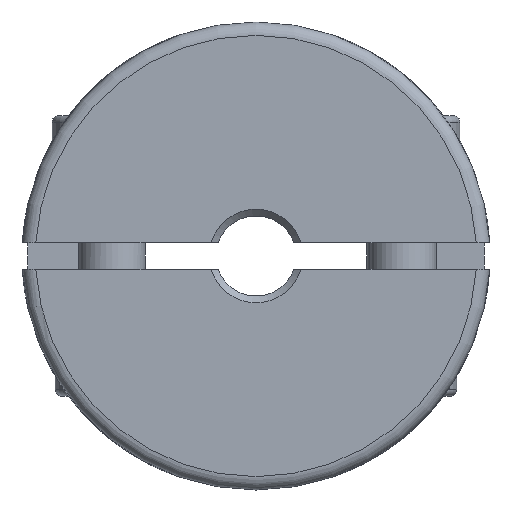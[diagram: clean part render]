
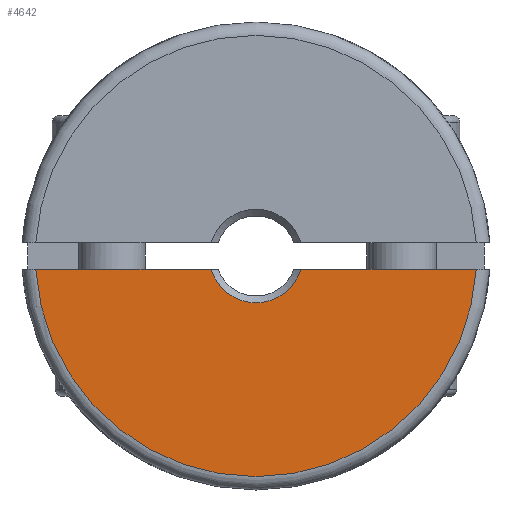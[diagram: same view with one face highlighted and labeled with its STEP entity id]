
A CAD part, left-side view. The second image highlights one B-rep face of the part: STEP entity #4642.
In plain terms, the highlighted planar face has unit normal (-1, 0, 0).
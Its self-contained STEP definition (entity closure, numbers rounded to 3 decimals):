
#127=LINE('',#7410,#303);
#138=LINE('',#7447,#314);
#303=VECTOR('',#5757,1000.);
#314=VECTOR('',#5790,1000.);
#524=PLANE('',#5000);
#1229=ORIENTED_EDGE('',*,*,#1827,.F.);
#1230=ORIENTED_EDGE('',*,*,#1735,.T.);
#1231=ORIENTED_EDGE('',*,*,#1846,.F.);
#1232=ORIENTED_EDGE('',*,*,#1810,.F.);
#1735=EDGE_CURVE('',#2113,#2111,#2361,.T.);
#1810=EDGE_CURVE('',#2179,#2177,#2394,.T.);
#1827=EDGE_CURVE('',#2113,#2179,#127,.T.);
#1846=EDGE_CURVE('',#2177,#2111,#138,.T.);
#2111=VERTEX_POINT('',#6903);
#2113=VERTEX_POINT('',#6906);
#2177=VERTEX_POINT('',#7235);
#2179=VERTEX_POINT('',#7242);
#2361=CIRCLE('',#4915,16.5);
#2394=CIRCLE('',#4967,3.5);
#2643=EDGE_LOOP('',(#1229,#1230,#1231,#1232));
#2935=FACE_BOUND('',#2643,.T.);
#4642=ADVANCED_FACE('',(#2935),#524,.T.);
#4915=AXIS2_PLACEMENT_3D('',#6905,#5598,#5599);
#4967=AXIS2_PLACEMENT_3D('',#7243,#5722,#5723);
#5000=AXIS2_PLACEMENT_3D('',#7456,#5804,#5805);
#5598=DIRECTION('',(-1.,0.,0.));
#5599=DIRECTION('',(0.,0.,-1.));
#5722=DIRECTION('',(-1.,0.,0.));
#5723=DIRECTION('',(0.,0.,-1.));
#5757=DIRECTION('',(0.,-1.,0.));
#5790=DIRECTION('',(0.,-1.,0.));
#5804=DIRECTION('',(-1.,0.,0.));
#5805=DIRECTION('',(0.,0.,-1.));
#6903=CARTESIAN_POINT('',(-21.304,-16.47,-1.));
#6905=CARTESIAN_POINT('',(-21.304,0.,0.));
#6906=CARTESIAN_POINT('',(-21.304,16.47,-1.));
#7235=CARTESIAN_POINT('',(-21.304,-3.354,-1.));
#7242=CARTESIAN_POINT('',(-21.304,3.354,-1.));
#7243=CARTESIAN_POINT('',(-21.304,0.,0.));
#7410=CARTESIAN_POINT('',(-21.304,0.,-1.));
#7447=CARTESIAN_POINT('',(-21.304,0.,-1.));
#7456=CARTESIAN_POINT('',(-21.304,0.,3.));
